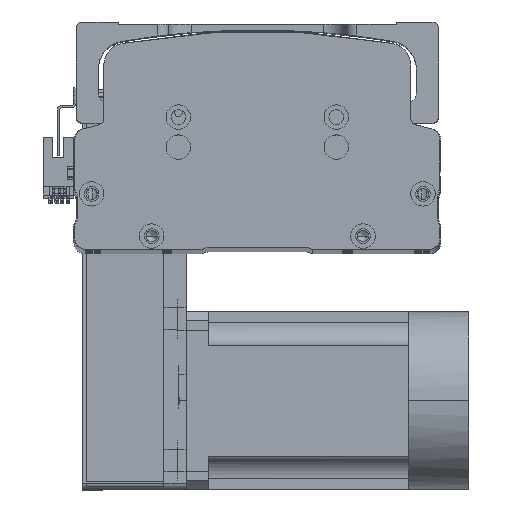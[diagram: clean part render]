
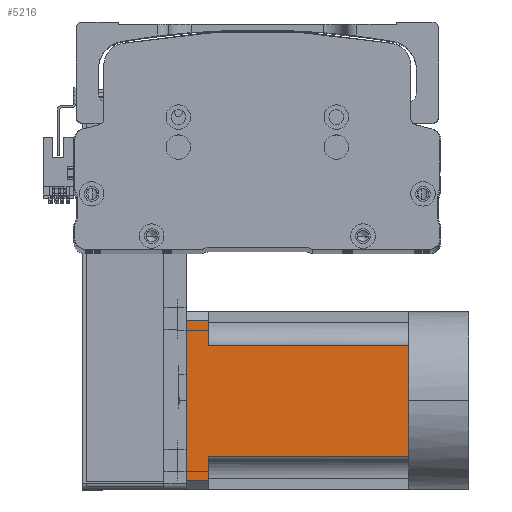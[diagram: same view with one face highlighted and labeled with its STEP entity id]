
A CAD part, top view. The second image highlights one B-rep face of the part: STEP entity #5216.
In plain terms, the highlighted planar face has unit normal (0, 0, 1) as drawn and (0, 0, -1) by its records, which use the part's own axes.
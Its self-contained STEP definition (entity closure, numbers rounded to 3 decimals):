
#117 = EDGE_CURVE ( 'NONE', #11107, #38622, #6773, .T. ) ;
#122 = ORIENTED_EDGE ( 'NONE', *, *, #14492, .T. ) ;
#1648 = EDGE_CURVE ( 'NONE', #59739, #11875, #5046, .T. ) ;
#4225 = VECTOR ( 'NONE', #45248, 1000. ) ;
#4674 = EDGE_CURVE ( 'NONE', #37347, #60105, #44464, .T. ) ;
#4927 = EDGE_CURVE ( 'NONE', #38622, #44573, #50673, .T. ) ;
#5046 = LINE ( 'NONE', #45981, #21442 ) ;
#5216 = ADVANCED_FACE ( 'NONE', ( #56869 ), #32396, .T. ) ;
#5325 = CARTESIAN_POINT ( 'NONE',  ( 25., -27., -40. ) ) ;
#6773 = LINE ( 'NONE', #21276, #20051 ) ;
#7567 = DIRECTION ( 'NONE',  ( -1., 0., 0. ) ) ;
#8268 = CARTESIAN_POINT ( 'NONE',  ( -40., 0., -40. ) ) ;
#8398 = CARTESIAN_POINT ( 'NONE',  ( -25., 90., -40. ) ) ;
#8538 = CARTESIAN_POINT ( 'NONE',  ( 36., -27., -40. ) ) ;
#9440 = VECTOR ( 'NONE', #38143, 1000. ) ;
#11083 = DIRECTION ( 'NONE',  ( -1., 0., 0. ) ) ;
#11107 = VERTEX_POINT ( 'NONE', #8398 ) ;
#11875 = VERTEX_POINT ( 'NONE', #38624 ) ;
#11938 = AXIS2_PLACEMENT_3D ( 'NONE', #57326, #37437, #7567 ) ;
#13811 = LINE ( 'NONE', #17789, #38729 ) ;
#14394 = DIRECTION ( 'NONE',  ( 0., 1., 0. ) ) ;
#14492 = EDGE_CURVE ( 'NONE', #63315, #59739, #26783, .T. ) ;
#16228 = ORIENTED_EDGE ( 'NONE', *, *, #1648, .T. ) ;
#16246 = EDGE_LOOP ( 'NONE', ( #25606, #122, #16228, #45893, #40360, #51623, #24438, #18108, #34353 ) ) ;
#17789 = CARTESIAN_POINT ( 'NONE',  ( -40., 100., -40. ) ) ;
#18108 = ORIENTED_EDGE ( 'NONE', *, *, #117, .T. ) ;
#18354 = DIRECTION ( 'NONE',  ( 0., -1., 0. ) ) ;
#19038 = LINE ( 'NONE', #5325, #4225 ) ;
#19868 = CARTESIAN_POINT ( 'NONE',  ( 25., 0., -40. ) ) ;
#20051 = VECTOR ( 'NONE', #45942, 1000. ) ;
#21019 = DIRECTION ( 'NONE',  ( -1., 0., 0. ) ) ;
#21276 = CARTESIAN_POINT ( 'NONE',  ( -40., 90., -40. ) ) ;
#21442 = VECTOR ( 'NONE', #11083, 1000. ) ;
#22781 = DIRECTION ( 'NONE',  ( -1., 0., 0. ) ) ;
#22885 = DIRECTION ( 'NONE',  ( 0., 1., 0. ) ) ;
#24438 = ORIENTED_EDGE ( 'NONE', *, *, #47525, .T. ) ;
#25606 = ORIENTED_EDGE ( 'NONE', *, *, #30611, .F. ) ;
#25830 = VERTEX_POINT ( 'NONE', #19868 ) ;
#26783 = LINE ( 'NONE', #8538, #53351 ) ;
#26929 = EDGE_CURVE ( 'NONE', #11875, #25830, #19038, .T. ) ;
#28061 = VECTOR ( 'NONE', #21019, 1000. ) ;
#30611 = EDGE_CURVE ( 'NONE', #63315, #44573, #13811, .T. ) ;
#32396 = PLANE ( 'NONE',  #11938 ) ;
#33790 = CARTESIAN_POINT ( 'NONE',  ( -25., 0., -40. ) ) ;
#34161 = EDGE_CURVE ( 'NONE', #25830, #37347, #62577, .T. ) ;
#34353 = ORIENTED_EDGE ( 'NONE', *, *, #4927, .T. ) ;
#34827 = CARTESIAN_POINT ( 'NONE',  ( -36., -27., -40. ) ) ;
#37347 = VERTEX_POINT ( 'NONE', #56282 ) ;
#37437 = DIRECTION ( 'NONE',  ( 0., 0., -1. ) ) ;
#38143 = DIRECTION ( 'NONE',  ( -1., 0., 0. ) ) ;
#38622 = VERTEX_POINT ( 'NONE', #47146 ) ;
#38624 = CARTESIAN_POINT ( 'NONE',  ( 25., 90., -40. ) ) ;
#38729 = VECTOR ( 'NONE', #22781, 1000. ) ;
#40360 = ORIENTED_EDGE ( 'NONE', *, *, #34161, .T. ) ;
#42732 = CARTESIAN_POINT ( 'NONE',  ( -25., -27., -40. ) ) ;
#44464 = LINE ( 'NONE', #55962, #28061 ) ;
#44573 = VERTEX_POINT ( 'NONE', #62141 ) ;
#45248 = DIRECTION ( 'NONE',  ( 0., -1., 0. ) ) ;
#45893 = ORIENTED_EDGE ( 'NONE', *, *, #26929, .T. ) ;
#45942 = DIRECTION ( 'NONE',  ( -1., 0., 0. ) ) ;
#45981 = CARTESIAN_POINT ( 'NONE',  ( -40., 90., -40. ) ) ;
#47146 = CARTESIAN_POINT ( 'NONE',  ( -36., 90., -40. ) ) ;
#47525 = EDGE_CURVE ( 'NONE', #60105, #11107, #61141, .T. ) ;
#47561 = VECTOR ( 'NONE', #14394, 1000. ) ;
#47849 = VECTOR ( 'NONE', #22885, 1000. ) ;
#50673 = LINE ( 'NONE', #34827, #47561 ) ;
#51623 = ORIENTED_EDGE ( 'NONE', *, *, #4674, .T. ) ;
#53351 = VECTOR ( 'NONE', #18354, 1000. ) ;
#55962 = CARTESIAN_POINT ( 'NONE',  ( -40., 0., -40. ) ) ;
#56282 = CARTESIAN_POINT ( 'NONE',  ( 0., 0., -40. ) ) ;
#56869 = FACE_OUTER_BOUND ( 'NONE', #16246, .T. ) ;
#57326 = CARTESIAN_POINT ( 'NONE',  ( -40., -27., -40. ) ) ;
#59426 = CARTESIAN_POINT ( 'NONE',  ( 36., 90., -40. ) ) ;
#59739 = VERTEX_POINT ( 'NONE', #59426 ) ;
#60105 = VERTEX_POINT ( 'NONE', #33790 ) ;
#61141 = LINE ( 'NONE', #42732, #47849 ) ;
#62141 = CARTESIAN_POINT ( 'NONE',  ( -36., 100., -40. ) ) ;
#62577 = LINE ( 'NONE', #8268, #9440 ) ;
#63315 = VERTEX_POINT ( 'NONE', #64052 ) ;
#64052 = CARTESIAN_POINT ( 'NONE',  ( 36., 100., -40. ) ) ;
